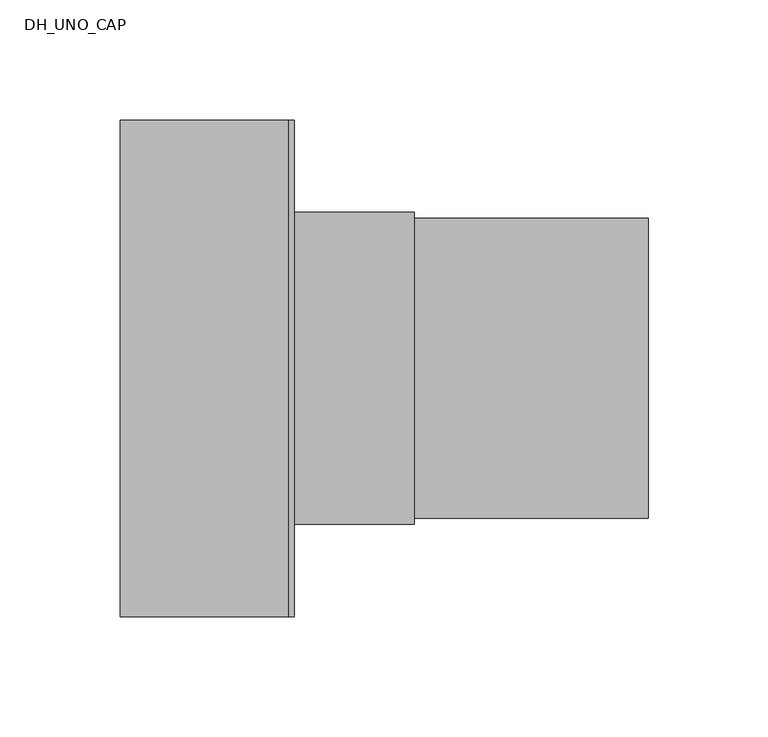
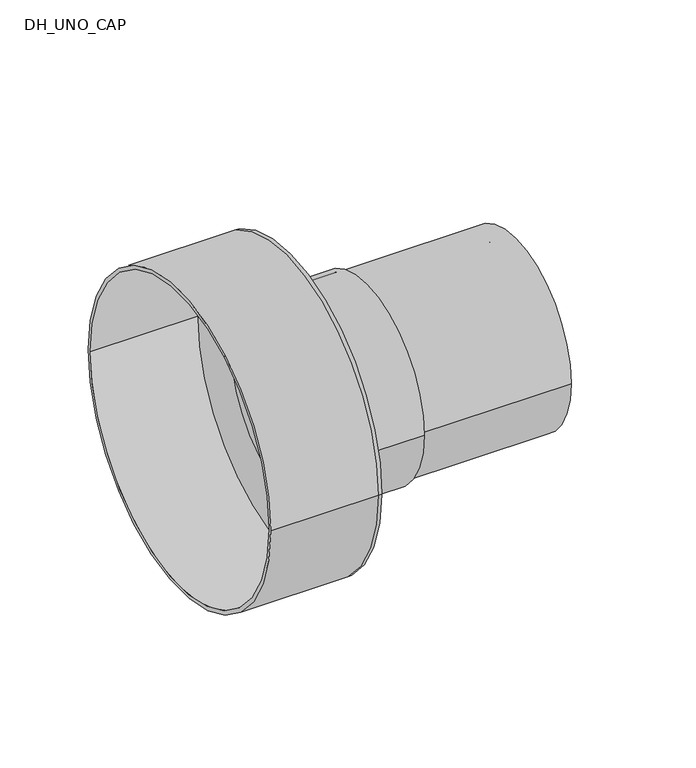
"""IFC4 building model written with IfcOpenShell, lengths in millimetres: pipe fitting geometry, DH_UNO_CAP : RAUTHERMEX UNO + 11 Heating - Schrink Cap."""

from ifc_helpers import new_model, si_unit, point, frame, origin, origin_2d, place, context, project, spatial, polyline, circle_curve, trimmed, segment, composite_curve, outline, extrude, source, transform, mapped, element, save
from ifc_brep_helpers import plane_surface, cylinder_surface, revolved_surface, advanced_brep


def dh_uno_cap_bb0927de(model_context):
    return source(origin(), model_context, "Body", "SolidModel", [
        extrude(outline(composite_curve([segment(trimmed(circle_curve(origin_2d(), 62.5), [point((-62.5, 0.0))], [point((62.5, 0.0))], False, "CARTESIAN"), True, "CONTINUOUS"), segment(trimmed(circle_curve(origin_2d(), 62.5), [point((62.5, 0.0))], [point((-62.5, 0.0))], False, "CARTESIAN"), True, "CONTINUOUS")], self_intersect=False), holes=[composite_curve([segment(trimmed(circle_curve(origin_2d(), 51.1), [point((-51.1, 0.0))], [point((51.1, 0.0))], True, "CARTESIAN"), True, "CONTINUOUS"), segment(trimmed(circle_curve(origin_2d(), 51.1), [point((51.1, 0.0))], [point((-51.1, 0.0))], True, "CARTESIAN"), True, "CONTINUOUS")], self_intersect=False)]), frame((0.0, 0.0, 0.0), z_axis=(1.0, 0.0, 0.0), x_axis=(0.0, 1.0, 0.0)), (0.0, 0.0, 1.0), 150.0),
        advanced_brep(
        [(-70.0, -103.5, 0.0), (-70.0, 103.5, 0.0), (-70.0, -101.0, 0.0), (-70.0, 101.0, 0.0), (0.0, -101.0, 0.0), (0.0, 101.0, 0.0), (0.0, -103.5, 0.0), (0.0, 103.5, 0.0), (0.0, 62.5, 0.0), (0.0, -62.5, 0.0), (2.5, -103.5, 0.0), (2.5, 103.5, 0.0), (2.5, -62.5, 0.0), (2.5, 62.5, 0.0)],
        [
            (0, 1, circle_curve(frame((-70.0, 0.0, 0.0), z_axis=(-1.0, 0.0, 0.0), x_axis=(0.0, 1.0, 0.0)), 103.5)),
            (1, 0, circle_curve(frame((-70.0, 0.0, 0.0), z_axis=(-1.0, 0.0, 0.0), x_axis=(0.0, 1.0, 0.0)), 103.5)),
            (2, 3, circle_curve(frame((-70.0, 0.0, 0.0), z_axis=(1.0, 0.0, 0.0), x_axis=(0.0, 1.0, 0.0)), 101.0)),
            (3, 2, circle_curve(frame((-70.0, 0.0, 0.0), z_axis=(1.0, 0.0, 0.0), x_axis=(0.0, 1.0, 0.0)), 101.0)),
            (2, 4),
            (4, 5, circle_curve(frame((0.0, 0.0, 0.0), z_axis=(1.0, 0.0, 0.0), x_axis=(0.0, 1.0, 0.0)), 101.0)),
            (5, 3),
            (5, 4, circle_curve(frame((0.0, 0.0, 0.0), z_axis=(1.0, 0.0, 0.0), x_axis=(0.0, 1.0, 0.0)), 101.0)),
            (0, 6),
            (6, 7, circle_curve(frame((0.0, 0.0, 0.0), z_axis=(-1.0, 0.0, 0.0), x_axis=(0.0, 1.0, 0.0)), 103.5)),
            (7, 1),
            (7, 6, circle_curve(frame((0.0, 0.0, 0.0), z_axis=(-1.0, 0.0, 0.0), x_axis=(0.0, 1.0, 0.0)), 103.5)),
            (8, 9, circle_curve(frame((0.0, 0.0, 0.0), z_axis=(1.0, 0.0, 0.0), x_axis=(0.0, 1.0, 0.0)), 62.5)),
            (9, 8, circle_curve(frame((0.0, 0.0, 0.0), z_axis=(1.0, 0.0, 0.0), x_axis=(0.0, 1.0, 0.0)), 62.5)),
            (10, 11, circle_curve(frame((2.5, 0.0, 0.0), z_axis=(1.0, 0.0, 0.0), x_axis=(0.0, 1.0, 0.0)), 103.5)),
            (11, 10, circle_curve(frame((2.5, 0.0, 0.0), z_axis=(1.0, 0.0, 0.0), x_axis=(0.0, 1.0, 0.0)), 103.5)),
            (12, 13, circle_curve(frame((2.5, 0.0, 0.0), z_axis=(-1.0, 0.0, 0.0), x_axis=(0.0, 1.0, 0.0)), 62.5)),
            (13, 12, circle_curve(frame((2.5, 0.0, 0.0), z_axis=(-1.0, 0.0, 0.0), x_axis=(0.0, 1.0, 0.0)), 62.5)),
            (11, 7),
            (6, 10),
            (8, 13),
            (12, 9),
        ],
        [
            plane_surface(frame((-70.0, 0.0, 0.0), z_axis=(-1.0, 0.0, 0.0), x_axis=(0.0, 0.0, 1.0))),
            revolved_surface(polyline([(0.0, 101.0, 0.0), (-70.0, 101.0, 0.0)]), (-70.0, 0.0, 0.0), (1.0, 0.0, 0.0)),
            cylinder_surface(frame((-70.0, 0.0, 0.0), z_axis=(-1.0, 0.0, 0.0), x_axis=(0.0, 1.0, 0.0)), 103.5),
            plane_surface(frame((0.0, 0.0, 0.0), z_axis=(-1.0, 0.0, 0.0), x_axis=(0.0, 0.0, 1.0))),
            plane_surface(frame((2.5, 0.0, 0.0), z_axis=(1.0, 0.0, 0.0), x_axis=(0.0, 0.0, 1.0))),
            cylinder_surface(frame((0.0, 0.0, 0.0), z_axis=(-1.0, 0.0, 0.0), x_axis=(0.0, 1.0, 0.0)), 103.5),
            revolved_surface(polyline([(0.0, 62.5, 0.0), (2.5, 62.5, 0.0)]), (0.0, 0.0, 0.0), (-1.0, 0.0, 0.0)),
        ],
        [
            (0, [[1, 2], [3, 4]]),
            (1, [[-3, 5, 6, 7]]),
            (1, [[-4, -7, 8, -5]]),
            (2, [[-1, 9, 10, 11]]),
            (2, [[-2, -11, 12, -9]]),
            (3, [[-6, -8], [13, 14]]),
            (4, [[15, 16], [17, 18]]),
            (5, [[-16, 19, -10, 20]]),
            (5, [[-15, -20, -12, -19]]),
            (6, [[21, -17, 22, -13]]),
            (6, [[-21, -14, -22, -18]]),
        ],
    ),
        extrude(outline(composite_curve([segment(trimmed(circle_curve(origin_2d(), 65.0), [point((-65.0, 0.0))], [point((65.0, 0.0))], False, "CARTESIAN"), True, "CONTINUOUS"), segment(trimmed(circle_curve(origin_2d(), 65.0), [point((65.0, 0.0))], [point((-65.0, 0.0))], False, "CARTESIAN"), True, "CONTINUOUS")], self_intersect=False), holes=[composite_curve([segment(trimmed(circle_curve(origin_2d(), 62.5), [point((-62.5, 0.0))], [point((62.5, 0.0))], True, "CARTESIAN"), True, "CONTINUOUS"), segment(trimmed(circle_curve(origin_2d(), 62.5), [point((62.5, 0.0))], [point((-62.5, 0.0))], True, "CARTESIAN"), True, "CONTINUOUS")], self_intersect=False)]), frame((2.5, 0.0, 0.0), z_axis=(1.0, 0.0, 0.0), x_axis=(0.0, 1.0, 0.0)), (0.0, 0.0, 1.0), 50.0),
    ])


if __name__ == "__main__":
    model = new_model("IFC4")
    model_context = context("Model", 3, world=origin())
    ifc_project = project(units=[si_unit("LENGTHUNIT", "METRE", prefix="MILLI")], contexts=[model_context])
    site = spatial("IfcSite", under=ifc_project)
    building = spatial("IfcBuilding", under=site)
    placement = place(None, origin())
    dh_uno_cap_shape = dh_uno_cap_bb0927de(model_context)
    element("IfcPipeFitting", 1, ObjectType="DH_UNO_CAP : RAUTHERMEX UNO + 11 Heating - Schrink Cap", at=placement, inside=building, context=model_context, shape_type="MappedRepresentation", body=[
        mapped(dh_uno_cap_shape, transform((0.0, 0.0, 0.0), x_axis=(1.0, 0.0, 0.0), y_axis=(0.0, 1.0, 0.0), z_axis=(0.0, 0.0, 1.0))),
    ])
    save(model, "model.ifc")
